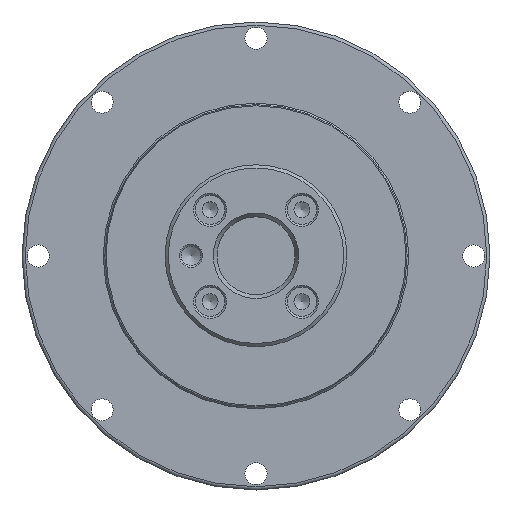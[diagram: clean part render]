
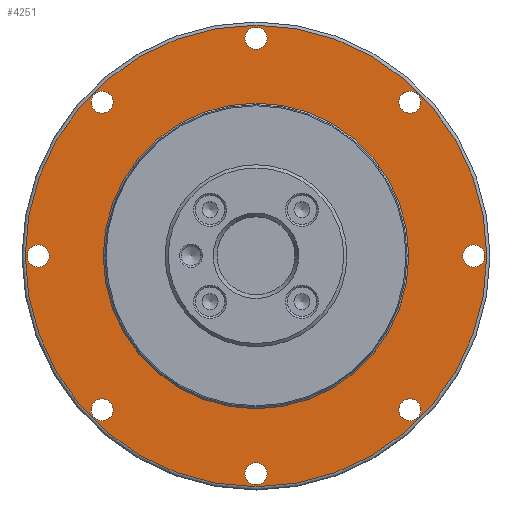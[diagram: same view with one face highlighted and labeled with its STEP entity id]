
A CAD part, top view. The second image highlights one B-rep face of the part: STEP entity #4251.
In plain terms, the highlighted planar face has unit normal (0, 0, 1).
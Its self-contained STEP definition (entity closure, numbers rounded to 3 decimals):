
#4129=CARTESIAN_POINT('',(35.5,0.,4.0));
#4130=VERTEX_POINT('',#4129);
#4131=CARTESIAN_POINT('',(0.0,0.0,4.0));
#4132=DIRECTION('',(0.0,0.0,-1.0));
#4133=DIRECTION('',(-1.0,0.0,0.0));
#4134=AXIS2_PLACEMENT_3D('',#4131,#4132,#4133);
#4135=CIRCLE('',#4134,35.5);
#4136=EDGE_CURVE('',#4130,#4130,#4135,.T.);
#4144=CARTESIAN_POINT('',(0.0,0.0,4.0));
#4145=DIRECTION('',(0.0,0.0,-1.0));
#4146=DIRECTION('',(-1.0,0.0,0.0));
#4147=AXIS2_PLACEMENT_3D('',#4144,#4145,#4146);
#4148=PLANE('',#4147);
#4149=ORIENTED_EDGE('',*,*,#4136,.F.);
#4150=EDGE_LOOP('',(#4149));
#4151=FACE_OUTER_BOUND('',#4150,.T.);
#4152=CARTESIAN_POINT('',(23.5,0.,4.0));
#4153=VERTEX_POINT('',#4152);
#4154=CARTESIAN_POINT('',(0.0,0.0,4.0));
#4155=DIRECTION('',(0.0,0.0,-1.0));
#4156=DIRECTION('',(-1.0,0.0,0.0));
#4157=AXIS2_PLACEMENT_3D('',#4154,#4155,#4156);
#4158=CIRCLE('',#4157,23.5);
#4159=EDGE_CURVE('',#4153,#4153,#4158,.T.);
#4160=ORIENTED_EDGE('',*,*,#4159,.T.);
#4161=EDGE_LOOP('',(#4160));
#4162=FACE_BOUND('',#4161,.T.);
#4163=CARTESIAN_POINT('',(1.7,33.5,4.0));
#4164=VERTEX_POINT('',#4163);
#4165=CARTESIAN_POINT('',(0.0,33.5,4.0));
#4166=DIRECTION('',(0.0,0.0,-1.0));
#4167=DIRECTION('',(-1.0,0.0,0.0));
#4168=AXIS2_PLACEMENT_3D('',#4165,#4166,#4167);
#4169=CIRCLE('',#4168,1.7);
#4170=EDGE_CURVE('',#4164,#4164,#4169,.T.);
#4171=ORIENTED_EDGE('',*,*,#4170,.T.);
#4172=EDGE_LOOP('',(#4171));
#4173=FACE_BOUND('',#4172,.T.);
#4174=CARTESIAN_POINT('',(-22.486,24.89,4.0));
#4175=VERTEX_POINT('',#4174);
#4176=CARTESIAN_POINT('',(-23.688,23.688,4.0));
#4177=DIRECTION('',(0.0,0.0,-1.0));
#4178=DIRECTION('',(-0.707,-0.707,0.0));
#4179=AXIS2_PLACEMENT_3D('',#4176,#4177,#4178);
#4180=CIRCLE('',#4179,1.7);
#4181=EDGE_CURVE('',#4175,#4175,#4180,.T.);
#4182=ORIENTED_EDGE('',*,*,#4181,.T.);
#4183=EDGE_LOOP('',(#4182));
#4184=FACE_BOUND('',#4183,.T.);
#4185=CARTESIAN_POINT('',(-33.5,1.7,4.0));
#4186=VERTEX_POINT('',#4185);
#4187=CARTESIAN_POINT('',(-33.5,0.0,4.0));
#4188=DIRECTION('',(0.0,0.0,-1.0));
#4189=DIRECTION('',(0.0,-1.0,0.0));
#4190=AXIS2_PLACEMENT_3D('',#4187,#4188,#4189);
#4191=CIRCLE('',#4190,1.7);
#4192=EDGE_CURVE('',#4186,#4186,#4191,.T.);
#4193=ORIENTED_EDGE('',*,*,#4192,.T.);
#4194=EDGE_LOOP('',(#4193));
#4195=FACE_BOUND('',#4194,.T.);
#4196=CARTESIAN_POINT('',(-24.89,-22.486,4.0));
#4197=VERTEX_POINT('',#4196);
#4198=CARTESIAN_POINT('',(-23.688,-23.688,4.0));
#4199=DIRECTION('',(0.0,0.0,-1.0));
#4200=DIRECTION('',(0.707,-0.707,0.0));
#4201=AXIS2_PLACEMENT_3D('',#4198,#4199,#4200);
#4202=CIRCLE('',#4201,1.7);
#4203=EDGE_CURVE('',#4197,#4197,#4202,.T.);
#4204=ORIENTED_EDGE('',*,*,#4203,.T.);
#4205=EDGE_LOOP('',(#4204));
#4206=FACE_BOUND('',#4205,.T.);
#4207=CARTESIAN_POINT('',(-1.7,-33.5,4.0));
#4208=VERTEX_POINT('',#4207);
#4209=CARTESIAN_POINT('',(0.,-33.5,4.0));
#4210=DIRECTION('',(0.0,0.0,-1.0));
#4211=DIRECTION('',(1.0,0.0,0.0));
#4212=AXIS2_PLACEMENT_3D('',#4209,#4210,#4211);
#4213=CIRCLE('',#4212,1.7);
#4214=EDGE_CURVE('',#4208,#4208,#4213,.T.);
#4215=ORIENTED_EDGE('',*,*,#4214,.T.);
#4216=EDGE_LOOP('',(#4215));
#4217=FACE_BOUND('',#4216,.T.);
#4218=CARTESIAN_POINT('',(22.486,-24.89,4.0));
#4219=VERTEX_POINT('',#4218);
#4220=CARTESIAN_POINT('',(23.688,-23.688,4.0));
#4221=DIRECTION('',(0.0,0.0,-1.0));
#4222=DIRECTION('',(0.707,0.707,0.0));
#4223=AXIS2_PLACEMENT_3D('',#4220,#4221,#4222);
#4224=CIRCLE('',#4223,1.7);
#4225=EDGE_CURVE('',#4219,#4219,#4224,.T.);
#4226=ORIENTED_EDGE('',*,*,#4225,.T.);
#4227=EDGE_LOOP('',(#4226));
#4228=FACE_BOUND('',#4227,.T.);
#4229=CARTESIAN_POINT('',(33.5,-1.7,4.0));
#4230=VERTEX_POINT('',#4229);
#4231=CARTESIAN_POINT('',(33.5,0.,4.0));
#4232=DIRECTION('',(0.0,0.0,-1.0));
#4233=DIRECTION('',(0.0,1.0,0.0));
#4234=AXIS2_PLACEMENT_3D('',#4231,#4232,#4233);
#4235=CIRCLE('',#4234,1.7);
#4236=EDGE_CURVE('',#4230,#4230,#4235,.T.);
#4237=ORIENTED_EDGE('',*,*,#4236,.T.);
#4238=EDGE_LOOP('',(#4237));
#4239=FACE_BOUND('',#4238,.T.);
#4240=CARTESIAN_POINT('',(24.89,22.486,4.0));
#4241=VERTEX_POINT('',#4240);
#4242=CARTESIAN_POINT('',(23.688,23.688,4.0));
#4243=DIRECTION('',(0.0,0.0,-1.0));
#4244=DIRECTION('',(-0.707,0.707,0.0));
#4245=AXIS2_PLACEMENT_3D('',#4242,#4243,#4244);
#4246=CIRCLE('',#4245,1.7);
#4247=EDGE_CURVE('',#4241,#4241,#4246,.T.);
#4248=ORIENTED_EDGE('',*,*,#4247,.T.);
#4249=EDGE_LOOP('',(#4248));
#4250=FACE_BOUND('',#4249,.T.);
#4251=ADVANCED_FACE('',(#4151,#4162,#4173,#4184,#4195,#4206,#4217,#4228,#4239,#4250),#4148,.F.);
